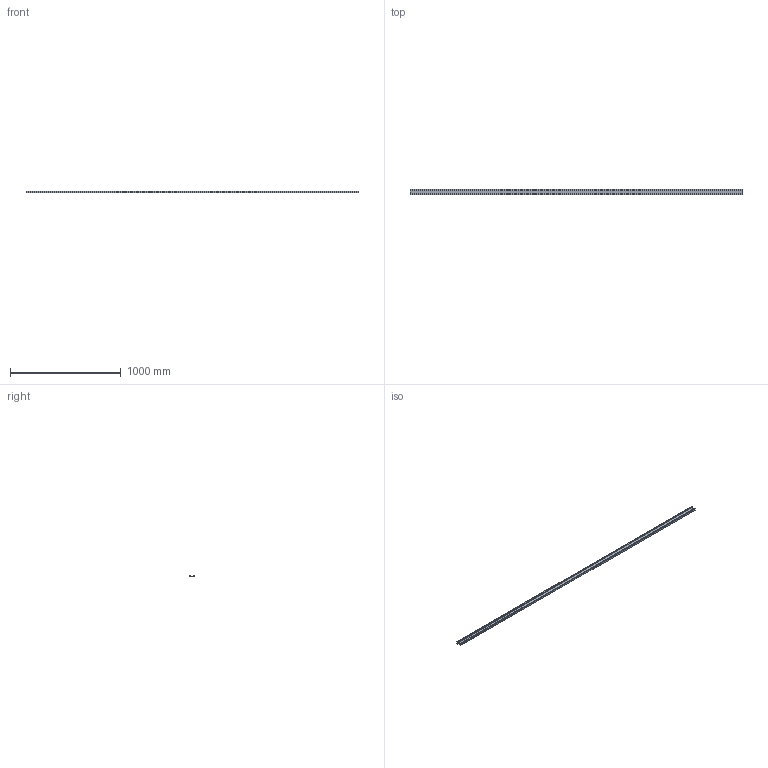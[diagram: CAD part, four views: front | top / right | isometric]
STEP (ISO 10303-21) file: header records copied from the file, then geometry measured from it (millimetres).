
FILE_DESCRIPTION (( 'STEP AP214' ), '1' );
FILE_NAME ('FABER - FD7 3.STEP', '2017-04-06T07:36:40', ( '' ), ( '' ), 'SwSTEP 2.0', 'SolidWorks 2016', '' );
FILE_SCHEMA (( 'AUTOMOTIVE_DESIGN' ));
Length unit declared in the file: millimetre
Products named in the file (1): FABER - FD7 3
Bounding box: 3000 x 50 x 15 mm (x, y, z)
Volume: 902700 mm3; surface area: 528601.8 mm2
Topology: 1 solids, 1 shells, 14 faces, 36 edges, 24 vertices
Faces by surface type: plane 14
Entity records: 454 total; most frequent: CARTESIAN_POINT 75, ORIENTED_EDGE 72, DIRECTION 66, VECTOR 36, LINE 36, EDGE_CURVE 36, VERTEX_POINT 24, AXIS2_PLACEMENT_3D 15
